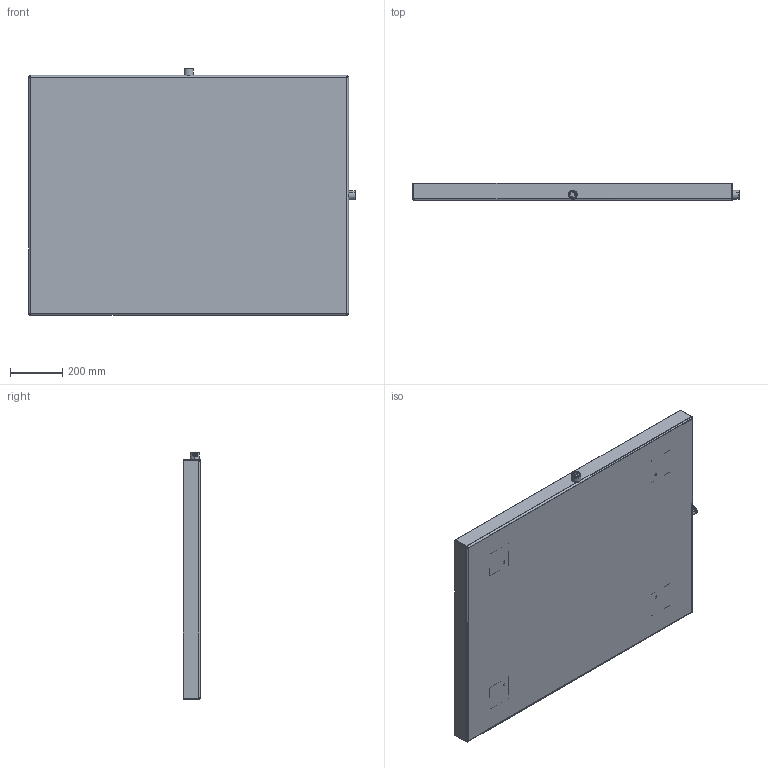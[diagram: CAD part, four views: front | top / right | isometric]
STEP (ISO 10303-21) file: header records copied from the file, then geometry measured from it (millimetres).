
FILE_DESCRIPTION (( 'STEP AP203' ), '1' );
FILE_NAME ('RJDPP030.STEP', '2015-01-07T19:49:03', ( '' ), ( '' ), 'SwSTEP 2.0', 'SolidWorks 2014', '' );
FILE_SCHEMA (( 'CONFIG_CONTROL_DESIGN' ));
Length unit declared in the file: inch
Products named in the file (1): RJDPP030
Bounding box: 1244.6 x 66.67 x 939.8 mm (x, y, z)
Volume: 4726605.2 mm3; surface area: 2883163.3 mm2
Topology: 9 solids, 9 shells, 250 faces, 532 edges, 304 vertices
Faces by surface type: cone 128, plane 70, cylinder 44, bspline 8
Entity records: 7243 total; most frequent: CARTESIAN_POINT 1703, DIRECTION 1210, ORIENTED_EDGE 1064, EDGE_CURVE 532, AXIS2_PLACEMENT_3D 451, VECTOR 308, LINE 308, VERTEX_POINT 304
